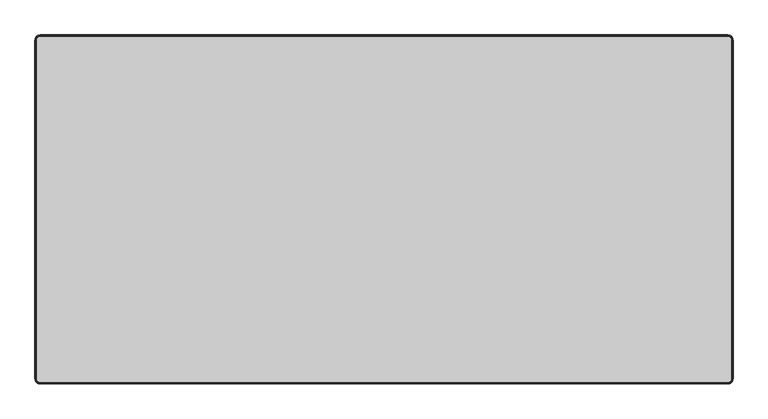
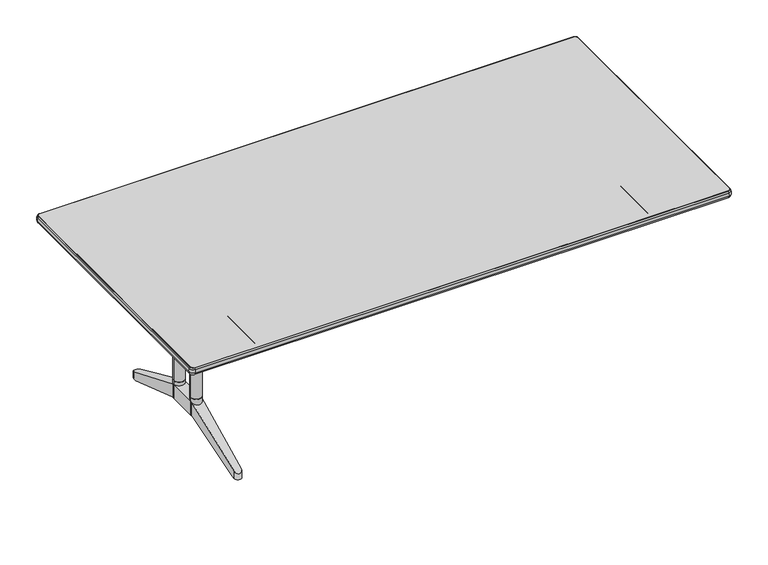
"""IFC4 building model written with IfcOpenShell, lengths in millimetres: furniture geometry, Furniture_Wilkhahn_614-00_TimetableShift : TIMETABLE SHIFT 614/00 2000L x 1000W."""

from ifc_helpers import new_model, si_unit, point, frame, frame_2d, origin, place, context, project, spatial, polyline, circle_curve, ellipse_curve, trimmed, segment, composite_curve, outline, extrude, source, transform, mapped, element, save
from ifc_brep_helpers import plane_surface, cylinder_surface, revolved_surface, advanced_brep


def furniture_5a756c34(model_context):
    return source(origin(), model_context, "Body", "SolidModel", [
        extrude(outline(composite_curve([segment(trimmed(circle_curve(frame_2d((-725.0, -154.0488451)), 20.0), [point((-745.0, -154.0488451))], [point((-705.0, -154.0488451))], False, "CARTESIAN"), True, "CONTINUOUS"), segment(trimmed(circle_curve(frame_2d((-725.0, -154.0488451)), 20.0), [point((-705.0, -154.0488451))], [point((-745.0, -154.0488451))], False, "CARTESIAN"), True, "CONTINUOUS")], self_intersect=False)), frame((0.0, 0.0, 193.3080085), z_axis=(0.0, 0.0, 1.0), x_axis=(1.0, 0.0, 0.0)), (0.0, 0.0, 1.0), 68.8536941),
        extrude(outline(composite_curve([segment(trimmed(circle_curve(frame_2d((-725.0, -44.0488461)), 20.0), [point((-745.0, -44.0488461))], [point((-705.0, -44.0488461))], False, "CARTESIAN"), True, "CONTINUOUS"), segment(trimmed(circle_curve(frame_2d((-725.0, -44.0488461)), 20.0), [point((-705.0, -44.0488461))], [point((-745.0, -44.0488461))], False, "CARTESIAN"), True, "CONTINUOUS")], self_intersect=False)), frame((0.0, 0.0, 193.3080085), z_axis=(0.0, 0.0, 1.0), x_axis=(1.0, 0.0, 0.0)), (0.0, 0.0, 1.0), 68.8536941),
        extrude(outline(composite_curve([segment(trimmed(circle_curve(frame_2d((-725.0, -154.0488451)), 20.0), [point((-745.0, -154.0488451))], [point((-705.0, -154.0488451))], False, "CARTESIAN"), True, "CONTINUOUS"), segment(trimmed(circle_curve(frame_2d((-725.0, -154.0488451)), 20.0), [point((-705.0, -154.0488451))], [point((-745.0, -154.0488451))], False, "CARTESIAN"), True, "CONTINUOUS")], self_intersect=False)), frame((0.0, 0.0, 262.1617027), z_axis=(0.0, 0.0, 1.0), x_axis=(1.0, 0.0, 0.0)), (0.0, 0.0, 1.0), 317.8382973),
        extrude(outline(composite_curve([segment(trimmed(circle_curve(frame_2d((-725.0, -44.0488461)), 20.0), [point((-745.0, -44.0488461))], [point((-705.0, -44.0488461))], False, "CARTESIAN"), True, "CONTINUOUS"), segment(trimmed(circle_curve(frame_2d((-725.0, -44.0488461)), 20.0), [point((-705.0, -44.0488461))], [point((-745.0, -44.0488461))], False, "CARTESIAN"), True, "CONTINUOUS")], self_intersect=False)), frame((0.0, 0.0, 262.1617027), z_axis=(0.0, 0.0, 1.0), x_axis=(1.0, 0.0, 0.0)), (0.0, 0.0, 1.0), 317.8382973),
        extrude(outline(polyline([(-698.9999882, 147.9511612), (-698.9999882, -352.0488426), (-751.0000118, -352.0488426), (-751.0000118, 147.9511612), (-698.9999882, 147.9511612)])), frame((0.0, 0.0, 676.0000168), z_axis=(0.0, 0.0, 1.0), x_axis=(1.0, 0.0, 0.0)), (0.0, 0.0, 1.0), 27.9999624),
        advanced_brep(
        [(-739.9998762, -140.8200278, 676.0000168), (-709.9998905, -140.8201331, 676.0000168), (-709.9998905, -134.0488456, 676.0000168), (-739.9998762, -134.0488456, 676.0000168), (-709.9998905, -57.2775581, 676.0000168), (-739.9998762, -57.2776634, 676.0000168), (-739.9998762, -64.0488456, 676.0000168), (-709.9998905, -64.0488456, 676.0000168), (-739.9998762, -57.2776634, 580.0), (-709.9998905, -57.2775581, 580.0), (-709.9998905, -140.8201331, 580.0), (-739.9998762, -140.8200278, 580.0), (-739.9998762, -134.0488456, 598.0000176), (-739.9998762, -64.0488456, 598.0000176), (-709.9998905, -64.0488456, 598.0000176), (-709.9998905, -134.0488456, 598.0000176)],
        [
            (0, 1, circle_curve(frame((-724.9999298, -154.0488451, 676.0000168), z_axis=(0.0, 0.0, 1.0), x_axis=(1.0, 0.0, 0.0)), 20.0)),
            (1, 2),
            (2, 3),
            (3, 0),
            (4, 5, circle_curve(frame((-724.9999298, -44.0488461, 676.0000168), z_axis=(0.0, 0.0, 1.0), x_axis=(1.0, 0.0, 0.0)), 20.0)),
            (5, 6),
            (6, 7),
            (7, 4),
            (8, 9, circle_curve(frame((-724.9999298, -44.0488461, 580.0), z_axis=(0.0, 0.0, -1.0), x_axis=(1.0, 0.0, 0.0)), 20.0)),
            (9, 10),
            (10, 11, circle_curve(frame((-724.9999298, -154.0488451, 580.0), z_axis=(0.0, 0.0, -1.0), x_axis=(1.0, 0.0, 0.0)), 20.0)),
            (11, 8),
            (11, 0),
            (3, 12),
            (12, 13),
            (13, 6),
            (5, 8),
            (10, 1),
            (9, 4),
            (7, 14),
            (14, 15),
            (15, 2),
            (15, 12),
            (14, 13),
        ],
        [
            plane_surface(frame((-739.9998762, -140.8200278, 676.0000168), z_axis=(0.0, 0.0, 1.0), x_axis=(0.0, -1.0, 0.0))),
            plane_surface(frame((-739.9998762, -140.8200278, 580.0), z_axis=(0.0, 0.0, -1.0), x_axis=(0.0, 1.0, 0.0))),
            plane_surface(frame((-739.9998762, -57.2776634, 676.0000168), z_axis=(-1.0, 0.0, 0.0), x_axis=(0.0, 0.0, -1.0))),
            cylinder_surface(frame((-724.9999298, -154.0488451, 580.0), z_axis=(0.0, 0.0, 1.0), x_axis=(1.0, 0.0, 0.0)), 20.0),
            plane_surface(frame((-709.9998905, -140.8201331, 676.0000168), z_axis=(1.0, 0.0, 0.0), x_axis=(0.0, 0.0, -1.0))),
            cylinder_surface(frame((-724.9999298, -44.0488461, 580.0), z_axis=(0.0, 0.0, 1.0), x_axis=(1.0, 0.0, 0.0)), 20.0),
            plane_surface(frame((-709.9998905, -134.0488456, 676.0000168), z_axis=(0.0, 1.0, 0.0), x_axis=(-1.0, 0.0, 0.0))),
            plane_surface(frame((-709.9998905, -134.0488456, 598.0000176), z_axis=(0.0, 0.0, 1.0), x_axis=(-1.0, 0.0, 0.0))),
            plane_surface(frame((-709.9998905, -64.0488456, 598.0000176), z_axis=(0.0, -1.0, 0.0), x_axis=(-1.0, 0.0, 0.0))),
        ],
        [
            (0, [[1, 2, 3, 4]]),
            (0, [[5, 6, 7, 8]]),
            (1, [[9, 10, 11, 12]]),
            (2, [[-12, 13, -4, 14, 15, 16, -6, 17]]),
            (3, [[-1, -13, -11, 18]]),
            (4, [[-10, 19, -8, 20, 21, 22, -2, -18]]),
            (5, [[-5, -19, -9, -17]]),
            (6, [[23, -14, -3, -22]]),
            (7, [[-23, -21, 24, -15]]),
            (8, [[-24, -20, -7, -16]]),
        ],
    ),
        advanced_brep(
        [(-711.5271049, 208.4135103, 105.0), (-738.472897, 208.4135103, 105.0), (-738.1262294, 221.8222582, 105.0), (-711.8737706, 221.8222564, 105.0), (-738.1262294, 221.8222582, 133.4205559), (-745.0000182, -44.0488461, 248.3080085), (-705.0000182, -44.0488461, 248.3080085), (-711.8737706, 221.8222564, 133.4205567), (-705.2000412, -36.3121196, 193.3080085), (-744.7999941, -36.3121196, 193.3080085), (-711.8737706, -419.9199475, 133.4205567), (-705.0000182, -154.0488451, 248.3080085), (-745.0000182, -154.0488451, 248.3080085), (-738.1262294, -419.9199493, 133.4205559), (-711.8737706, -419.9199475, 105.0), (-711.5271049, -406.5112014, 105.0), (-705.2000412, -161.7855715, 193.3080085), (-705.0000182, -154.0488451, 193.3080085), (-738.1262294, -419.9199493, 105.0), (-745.0000182, -154.0488451, 193.3080085), (-744.7999941, -161.7855715, 193.3080085), (-738.472897, -406.5112014, 105.0), (-745.0000182, -44.0488461, 193.3080085), (-705.0000182, -44.0488461, 193.3080085)],
        [
            (0, 1),
            (1, 2),
            (2, 3, circle_curve(frame((-725.0, 221.4828948, 105.0), z_axis=(0.0, 0.0, -1.0), x_axis=(1.0, 0.0, 0.0)), 13.1306156)),
            (3, 0),
            (4, 5),
            (5, 6),
            (6, 7),
            (7, 4, ellipse_curve(frame((-725.0, 221.4828948, 133.5672007), z_axis=(0.0, 0.3966672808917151, 0.9179624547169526), x_axis=(0.0, 0.9179624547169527, -0.39666728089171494)), 14.3040878, 13.1306156)),
            (0, 8),
            (8, 9),
            (9, 1),
            (10, 11),
            (11, 12),
            (12, 13),
            (13, 10, ellipse_curve(frame((-725.0, -419.5805859, 133.5672007), z_axis=(0.0, -0.3966672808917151, 0.9179624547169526), x_axis=(0.0, -0.9179624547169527, -0.39666728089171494)), 14.3040878, 13.1306156)),
            (10, 14),
            (14, 15),
            (15, 16),
            (16, 17),
            (17, 11),
            (13, 18),
            (18, 14, circle_curve(frame((-725.0, -419.5805859, 105.0), z_axis=(0.0, 0.0, 1.0), x_axis=(1.0, 0.0, 0.0)), 13.1306156)),
            (12, 19),
            (19, 20),
            (20, 21),
            (21, 18),
            (4, 2),
            (9, 22),
            (22, 5),
            (7, 3),
            (6, 23),
            (23, 8),
            (21, 15),
            (20, 16),
            (11, 6),
            (5, 12),
            (22, 19),
            (17, 23),
        ],
        [
            plane_surface(frame((-703.6205415, 208.4135103, 105.0), z_axis=(0.0, 0.0, -1.0), x_axis=(-1.0, 0.0, 0.0))),
            plane_surface(frame((-703.6205415, 235.9511544, 127.3152182), z_axis=(0.0, 0.3966672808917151, 0.9179624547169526), x_axis=(-1.0, 0.0, 0.0))),
            plane_surface(frame((-703.6205415, -36.3121196, 193.3080085), z_axis=(0.0, -0.3394229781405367, -0.9406338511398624), x_axis=(-1.0, 0.0, 0.0))),
            plane_surface(frame((-703.6205415, -154.0488451, 248.3080085), z_axis=(0.0, -0.3966672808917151, 0.9179624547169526), x_axis=(-1.0, 0.0, 0.0))),
            plane_surface(frame((-705.0000182, -154.0488451, 249.0000084), z_axis=(0.9996659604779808, -0.025845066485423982, 0.0), x_axis=(0.0, 0.0, -1.0))),
            cylinder_surface(frame((-725.0, -419.5805859, 90.0000025), z_axis=(0.0, 0.0, -1.0), x_axis=(1.0, 0.0, 0.0)), 13.1306156),
            plane_surface(frame((-738.1262294, -419.9199493, 249.0000084), z_axis=(-0.9996659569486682, -0.025845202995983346, 0.0), x_axis=(0.0, 0.0, -1.0))),
            plane_surface(frame((-745.0000182, -44.0488461, 249.0000084), z_axis=(-0.9996659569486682, 0.025845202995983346, 0.0), x_axis=(0.0, 0.0, -1.0))),
            cylinder_surface(frame((-725.0, 221.4828948, 0.0), z_axis=(0.0, 0.0, -1.0), x_axis=(1.0, 0.0, 0.0)), 13.1306156),
            plane_surface(frame((-711.8737706, 221.8222564, 249.0000084), z_axis=(0.9996659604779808, 0.025845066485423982, 0.0), x_axis=(0.0, 0.0, -1.0))),
            plane_surface(frame((-703.6205415, -434.0488456, 105.0), z_axis=(0.0, 0.0, -1.0), x_axis=(-1.0, 0.0, 0.0))),
            plane_surface(frame((-703.6205415, -406.5112014, 105.0), z_axis=(0.0, 0.3394229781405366, -0.9406338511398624), x_axis=(-1.0, 0.0, 0.0))),
            plane_surface(frame((-705.0000182, -44.0488461, 248.3080085), z_axis=(0.0, 0.0, 1.0), x_axis=(0.0, 1.0, 0.0))),
            plane_surface(frame((-745.0000182, -44.0488461, 248.3080085), z_axis=(-1.0, 0.0, 0.0), x_axis=(0.0, 0.0, -1.0))),
            plane_surface(frame((-705.0000182, -154.0488451, 248.3080085), z_axis=(1.0, 0.0, 0.0), x_axis=(0.0, 0.0, -1.0))),
            plane_surface(frame((-703.6205415, -44.0488461, 193.3080085), z_axis=(0.0, 0.0, -1.0), x_axis=(-1.0, 0.0, 0.0))),
        ],
        [
            (0, [[1, 2, 3, 4]]),
            (1, [[5, 6, 7, 8]]),
            (2, [[-1, 9, 10, 11]]),
            (3, [[12, 13, 14, 15]]),
            (4, [[16, 17, 18, 19, 20, -12]]),
            (5, [[-16, -15, 21, 22]]),
            (6, [[-21, -14, 23, 24, 25, 26]]),
            (7, [[27, -2, -11, 28, 29, -5]]),
            (8, [[-27, -8, 30, -3]]),
            (9, [[-30, -7, 31, 32, -9, -4]]),
            (10, [[33, -17, -22, -26]]),
            (11, [[-33, -25, 34, -18]]),
            (12, [[35, -6, 36, -13]]),
            (13, [[-36, -29, 37, -23]]),
            (14, [[-35, -20, 38, -31]]),
            (15, [[-10, -32, -38, -19, -34, -24, -37, -28]]),
        ],
    ),
        extrude(outline(composite_curve([segment(trimmed(circle_curve(frame_2d((-985.0, 385.9511544)), 10.0), [point((-995.0, 385.9511544))], [point((-985.0, 395.9511544))], False, "CARTESIAN"), True, "CONTINUOUS"), segment(polyline([(-985.0, 395.9511544), (985.0, 395.9511544)]), True, "CONTINUOUS"), segment(trimmed(circle_curve(frame_2d((985.0, 385.9511544)), 10.0), [point((985.0, 395.9511544))], [point((995.0, 385.9511544))], False, "CARTESIAN"), True, "CONTINUOUS"), segment(polyline([(995.0, 385.9511544), (995.0, -584.0488456)]), True, "CONTINUOUS"), segment(trimmed(circle_curve(frame_2d((985.0, -584.0488456)), 10.0), [point((995.0, -584.0488456))], [point((985.0, -594.0488456))], False, "CARTESIAN"), True, "CONTINUOUS"), segment(polyline([(985.0, -594.0488456), (-985.0, -594.0488456)]), True, "CONTINUOUS"), segment(trimmed(circle_curve(frame_2d((-985.0, -584.0488456)), 10.0), [point((-985.0, -594.0488456))], [point((-995.0, -584.0488456))], False, "CARTESIAN"), True, "CONTINUOUS"), segment(polyline([(-995.0, -584.0488456), (-995.0, 385.9511544)]), True, "CONTINUOUS")], self_intersect=False)), frame((0.0, 0.0, 703.9999792), z_axis=(0.0, 0.0, 1.0), x_axis=(1.0, 0.0, 0.0)), (0.0, 0.0, 1.0), 26.0000208),
        extrude(outline(composite_curve([segment(trimmed(circle_curve(frame_2d((689.999998, -725.0)), 3.5), [point((686.499998, -725.0))], [point((693.499998, -725.0))], False, "CARTESIAN"), True, "CONTINUOUS"), segment(trimmed(circle_curve(frame_2d((689.999998, -725.0)), 3.5), [point((693.499998, -725.0))], [point((686.499998, -725.0))], False, "CARTESIAN"), True, "CONTINUOUS")], self_intersect=False)), frame((0.0, -525.4394749, 0.0), z_axis=(0.0, 1.0, 0.0), x_axis=(0.0, 0.0, 1.0)), (0.0, 0.0, 1.0), 173.3906323),
        extrude(outline(composite_curve([segment(trimmed(circle_curve(frame_2d((689.999998, 725.0)), 3.5), [point((686.499998, 725.0))], [point((693.499998, 725.0))], False, "CARTESIAN"), True, "CONTINUOUS"), segment(trimmed(circle_curve(frame_2d((689.999998, 725.0)), 3.5), [point((693.499998, 725.0))], [point((686.499998, 725.0))], False, "CARTESIAN"), True, "CONTINUOUS")], self_intersect=False)), frame((0.0, -525.4394749, 0.0), z_axis=(0.0, 1.0, 0.0), x_axis=(0.0, 0.0, 1.0)), (0.0, 0.0, 1.0), 173.3906323),
        advanced_brep(
        [(-985.0, -594.0488456, 703.9999792), (-995.0, -584.0488456, 703.9999792), (-995.0, -584.0488456, 730.0), (-985.0, -594.0488456, 730.0), (-985.0, -597.4983863, 710.4062743), (-998.4495407, -584.0488456, 710.4062743), (-996.2436764, -584.0488456, 703.9999792), (-985.0, -595.292522, 703.9999792), (-985.0, -597.4983863, 723.593705), (-998.4495407, -584.0488456, 723.593705), (-985.0, -595.292522, 730.0), (-996.2436764, -584.0488456, 730.0), (985.0, -594.0488456, 730.0), (985.0, -594.0488456, 703.9999792), (985.0, -595.292522, 703.9999792), (985.0, -597.4983863, 710.4062743), (985.0, -597.4983863, 723.593705), (985.0, -595.292522, 730.0), (995.0, -584.0488456, 703.9999792), (995.0, -584.0488456, 730.0), (998.4495407, -584.0488456, 710.4062743), (996.2436764, -584.0488456, 703.9999792), (998.4495407, -584.0488456, 723.593705), (996.2436764, -584.0488456, 730.0), (995.0, 385.9511544, 730.0), (995.0, 385.9511544, 703.9999792), (996.2436764, 385.9511544, 703.9999792), (998.4495407, 385.9511544, 710.4062743), (998.4495407, 385.9511544, 723.593705), (996.2436764, 385.9511544, 730.0), (985.0, 395.9511544, 703.9999792), (985.0, 395.9511544, 730.0), (985.0, 399.4006952, 710.4062743), (985.0, 397.1948309, 703.9999792), (985.0, 399.4006952, 723.593705), (985.0, 397.1948309, 730.0), (-985.0, 395.9511544, 730.0), (-985.0, 395.9511544, 703.9999792), (-985.0, 397.1948309, 703.9999792), (-985.0, 399.4006952, 710.4062743), (-985.0, 399.4006952, 723.593705), (-985.0, 397.1948309, 730.0), (-995.0, 385.9511544, 703.9999792), (-995.0, 385.9511544, 730.0), (-998.4495407, 385.9511544, 710.4062743), (-996.2436764, 385.9511544, 703.9999792), (-998.4495407, 385.9511544, 723.593705), (-996.2436764, 385.9511544, 730.0)],
        [
            (0, 1, circle_curve(frame((-985.0, -584.0488456, 703.9999792), z_axis=(0.0, 0.0, -1.0), x_axis=(-1.0, 0.0, 0.0)), 10.0)),
            (1, 2),
            (2, 3, circle_curve(frame((-985.0, -584.0488456, 730.0), z_axis=(0.0, 0.0, 1.0), x_axis=(-1.0, 0.0, 0.0)), 10.0)),
            (3, 0),
            (4, 5, circle_curve(frame((-985.0, -584.0488456, 710.4062743), z_axis=(0.0, 0.0, -1.0), x_axis=(-1.0, 0.0, 0.0)), 13.4495407)),
            (5, 6),
            (6, 7, circle_curve(frame((-985.0, -584.0488456, 703.9999792), z_axis=(0.0, 0.0, 1.0), x_axis=(-1.0, 0.0, 0.0)), 11.2436764)),
            (7, 4),
            (8, 9, circle_curve(frame((-985.0, -584.0488456, 723.593705), z_axis=(0.0, 0.0, -1.0), x_axis=(-1.0, 0.0, 0.0)), 13.4495407)),
            (9, 5, circle_curve(frame((-985.2040596, -584.0488456, 716.9999896), z_axis=(0.0, -1.0, 0.0), x_axis=(1.0, 0.0, 0.0)), 14.7959404)),
            (4, 8, circle_curve(frame((-985.0, -584.2529051, 716.9999896), z_axis=(-1.0, 0.0, 0.0), x_axis=(0.0, 1.0, 0.0)), 14.7959404)),
            (10, 11, circle_curve(frame((-985.0, -584.0488456, 730.0), z_axis=(0.0, 0.0, -1.0), x_axis=(-1.0, 0.0, 0.0)), 11.2436764)),
            (11, 9),
            (8, 10),
            (3, 12),
            (12, 13),
            (13, 0),
            (7, 14),
            (14, 15),
            (15, 4),
            (15, 16, circle_curve(frame((985.0, -584.2529051, 716.9999896), z_axis=(-1.0, 0.0, 0.0), x_axis=(0.0, 1.0, 0.0)), 14.7959404)),
            (16, 8),
            (16, 17),
            (17, 10),
            (18, 13, circle_curve(frame((985.0, -584.0488456, 703.9999792), z_axis=(0.0, 0.0, -1.0), x_axis=(0.0, -1.0, 0.0)), 10.0)),
            (12, 19, circle_curve(frame((985.0, -584.0488456, 730.0), z_axis=(0.0, 0.0, 1.0), x_axis=(0.0, -1.0, 0.0)), 10.0)),
            (19, 18),
            (20, 15, circle_curve(frame((985.0, -584.0488456, 710.4062743), z_axis=(0.0, 0.0, -1.0), x_axis=(0.0, -1.0, 0.0)), 13.4495407)),
            (14, 21, circle_curve(frame((985.0, -584.0488456, 703.9999792), z_axis=(0.0, 0.0, 1.0), x_axis=(0.0, -1.0, 0.0)), 11.2436764)),
            (21, 20),
            (22, 16, circle_curve(frame((985.0, -584.0488456, 723.593705), z_axis=(0.0, 0.0, -1.0), x_axis=(0.0, -1.0, 0.0)), 13.4495407)),
            (20, 22, circle_curve(frame((985.2040596, -584.0488456, 716.9999896), z_axis=(0.0, -1.0, 0.0), x_axis=(-1.0, 0.0, 0.0)), 14.7959404)),
            (23, 17, circle_curve(frame((985.0, -584.0488456, 730.0), z_axis=(0.0, 0.0, -1.0), x_axis=(0.0, -1.0, 0.0)), 11.2436764)),
            (22, 23),
            (19, 24),
            (24, 25),
            (25, 18),
            (21, 26),
            (26, 27),
            (27, 20),
            (27, 28, circle_curve(frame((985.2040596, 385.9511544, 716.9999896), z_axis=(0.0, -1.0, 0.0), x_axis=(-1.0, 0.0, 0.0)), 14.7959404)),
            (28, 22),
            (28, 29),
            (29, 23),
            (30, 25, circle_curve(frame((985.0, 385.9511544, 703.9999792), z_axis=(0.0, 0.0, -1.0), x_axis=(1.0, 0.0, 0.0)), 10.0)),
            (24, 31, circle_curve(frame((985.0, 385.9511544, 730.0), z_axis=(0.0, 0.0, 1.0), x_axis=(1.0, 0.0, 0.0)), 10.0)),
            (31, 30),
            (32, 27, circle_curve(frame((985.0, 385.9511544, 710.4062743), z_axis=(0.0, 0.0, -1.0), x_axis=(1.0, 0.0, 0.0)), 13.4495407)),
            (26, 33, circle_curve(frame((985.0, 385.9511544, 703.9999792), z_axis=(0.0, 0.0, 1.0), x_axis=(1.0, 0.0, 0.0)), 11.2436764)),
            (33, 32),
            (34, 28, circle_curve(frame((985.0, 385.9511544, 723.593705), z_axis=(0.0, 0.0, -1.0), x_axis=(1.0, 0.0, 0.0)), 13.4495407)),
            (32, 34, circle_curve(frame((985.0, 386.155214, 716.9999896), z_axis=(1.0, 0.0, 0.0), x_axis=(0.0, -1.0, 0.0)), 14.7959404)),
            (35, 29, circle_curve(frame((985.0, 385.9511544, 730.0), z_axis=(0.0, 0.0, -1.0), x_axis=(1.0, 0.0, 0.0)), 11.2436764)),
            (34, 35),
            (31, 36),
            (36, 37),
            (37, 30),
            (33, 38),
            (38, 39),
            (39, 32),
            (39, 40, circle_curve(frame((-985.0, 386.155214, 716.9999896), z_axis=(1.0, 0.0, 0.0), x_axis=(0.0, -1.0, 0.0)), 14.7959404)),
            (40, 34),
            (40, 41),
            (41, 35),
            (42, 37, circle_curve(frame((-985.0, 385.9511544, 703.9999792), z_axis=(0.0, 0.0, -1.0), x_axis=(0.0, 1.0, 0.0)), 10.0)),
            (36, 43, circle_curve(frame((-985.0, 385.9511544, 730.0), z_axis=(0.0, 0.0, 1.0), x_axis=(0.0, 1.0, 0.0)), 10.0)),
            (43, 42),
            (44, 39, circle_curve(frame((-985.0, 385.9511544, 710.4062743), z_axis=(0.0, 0.0, -1.0), x_axis=(0.0, 1.0, 0.0)), 13.4495407)),
            (38, 45, circle_curve(frame((-985.0, 385.9511544, 703.9999792), z_axis=(0.0, 0.0, 1.0), x_axis=(0.0, 1.0, 0.0)), 11.2436764)),
            (45, 44),
            (46, 40, circle_curve(frame((-985.0, 385.9511544, 723.593705), z_axis=(0.0, 0.0, -1.0), x_axis=(0.0, 1.0, 0.0)), 13.4495407)),
            (44, 46, circle_curve(frame((-985.2040596, 385.9511544, 716.9999896), z_axis=(0.0, 1.0, 0.0), x_axis=(1.0, 0.0, 0.0)), 14.7959404)),
            (47, 41, circle_curve(frame((-985.0, 385.9511544, 730.0), z_axis=(0.0, 0.0, -1.0), x_axis=(0.0, 1.0, 0.0)), 11.2436764)),
            (46, 47),
            (43, 2),
            (1, 42),
            (45, 6),
            (5, 44),
            (9, 46),
            (11, 47),
        ],
        [
            revolved_surface(polyline([(-995.0, -584.0488456, 730.0), (-995.0, -584.0488456, 703.9999792)]), (-985.0, -584.0488456, 730.0), (0.0, 0.0, 1.0)),
            revolved_surface(polyline([(-996.2436764, -584.0488456, 703.9999792), (-998.4495407, -584.0488456, 710.4062743)]), (-985.0, -584.0488456, 730.0), (0.0, 0.0, 1.0)),
            revolved_surface(trimmed(ellipse_curve(frame((-985.2040596, -584.0488456, 716.9999896), z_axis=(0.0, 1.0, 0.0), x_axis=(1.0, 0.0, 0.0)), 14.7959404, 14.7959404), [point((-998.4495407, -584.0488456, 710.4062743))], [point((-998.4495407, -584.0488456, 723.593705))], True, "CARTESIAN"), (-985.0, -584.0488456, 730.0), (0.0, 0.0, 1.0)),
            revolved_surface(polyline([(-998.4495407, -584.0488456, 723.593705), (-996.2436764, -584.0488456, 730.0)]), (-985.0, -584.0488456, 730.0), (0.0, 0.0, 1.0)),
            plane_surface(frame((-985.0, -594.0488456, 730.0), z_axis=(0.0, 1.0, 0.0), x_axis=(1.0, 0.0, 0.0))),
            plane_surface(frame((-985.0, -595.292522, 703.9999792), z_axis=(0.0, -0.9455185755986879, -0.32556815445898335), x_axis=(1.0, 0.0, 0.0))),
            cylinder_surface(frame((-985.0, -584.2529051, 716.9999896), z_axis=(-1.0, 0.0, 0.0), x_axis=(0.0, 1.0, 0.0)), 14.7959404),
            plane_surface(frame((-985.0, -597.4983863, 723.593705), z_axis=(0.0, -0.945518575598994, 0.32556815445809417), x_axis=(1.0, 0.0, 0.0))),
            revolved_surface(polyline([(985.0, -594.0488456, 730.0), (985.0, -594.0488456, 703.9999792)]), (985.0, -584.0488456, 730.0), (0.0, 0.0, 1.0)),
            revolved_surface(polyline([(985.0, -595.292522, 703.9999792), (985.0, -597.4983863, 710.4062743)]), (985.0, -584.0488456, 730.0), (0.0, 0.0, 1.0)),
            revolved_surface(trimmed(ellipse_curve(frame((985.0, -584.2529051, 716.9999896), z_axis=(-1.0, 0.0, 0.0), x_axis=(0.0, 1.0, 0.0)), 14.7959404, 14.7959404), [point((985.0, -597.4983863, 710.4062743))], [point((985.0, -597.4983863, 723.593705))], True, "CARTESIAN"), (985.0, -584.0488456, 730.0), (0.0, 0.0, 1.0)),
            revolved_surface(polyline([(985.0, -597.4983863, 723.593705), (985.0, -595.292522, 730.0)]), (985.0, -584.0488456, 730.0), (0.0, 0.0, 1.0)),
            plane_surface(frame((995.0, -584.0488456, 730.0), z_axis=(-1.0, 0.0, 0.0), x_axis=(0.0, 1.0, 0.0))),
            plane_surface(frame((996.2436764, -584.0488456, 703.9999792), z_axis=(0.9455185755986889, 0.0, -0.32556815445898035), x_axis=(0.0, 1.0, 0.0))),
            cylinder_surface(frame((985.2040596, -584.0488456, 716.9999896), z_axis=(0.0, -1.0, 0.0), x_axis=(-1.0, 0.0, 0.0)), 14.7959404),
            plane_surface(frame((998.4495407, -584.0488456, 723.593705), z_axis=(0.945518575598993, 0.0, 0.32556815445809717), x_axis=(0.0, 1.0, 0.0))),
            revolved_surface(polyline([(995.0, 385.9511544, 730.0), (995.0, 385.9511544, 703.9999792)]), (985.0, 385.9511544, 730.0), (0.0, 0.0, 1.0)),
            revolved_surface(polyline([(996.2436764, 385.9511544, 703.9999792), (998.4495407, 385.9511544, 710.4062743)]), (985.0, 385.9511544, 730.0), (0.0, 0.0, 1.0)),
            revolved_surface(trimmed(ellipse_curve(frame((985.2040596, 385.9511544, 716.9999896), z_axis=(0.0, -1.0, 0.0), x_axis=(-1.0, 0.0, 0.0)), 14.7959404, 14.7959404), [point((998.4495407, 385.9511544, 710.4062743))], [point((998.4495407, 385.9511544, 723.593705))], True, "CARTESIAN"), (985.0, 385.9511544, 730.0), (0.0, 0.0, 1.0)),
            revolved_surface(polyline([(998.4495407, 385.9511544, 723.593705), (996.2436764, 385.9511544, 730.0)]), (985.0, 385.9511544, 730.0), (0.0, 0.0, 1.0)),
            plane_surface(frame((985.0, 395.9511544, 730.0), z_axis=(0.0, -1.0, 0.0), x_axis=(-1.0, 0.0, 0.0))),
            plane_surface(frame((985.0, 397.1948309, 703.9999792), z_axis=(0.0, 0.9455185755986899, -0.32556815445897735), x_axis=(-1.0, 0.0, 0.0))),
            cylinder_surface(frame((985.0, 386.155214, 716.9999896), z_axis=(1.0, 0.0, 0.0), x_axis=(0.0, -1.0, 0.0)), 14.7959404),
            plane_surface(frame((985.0, 399.4006952, 723.593705), z_axis=(0.0, 0.945518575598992, 0.32556815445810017), x_axis=(-1.0, 0.0, 0.0))),
            revolved_surface(polyline([(-985.0, 395.9511544, 730.0), (-985.0, 395.9511544, 703.9999792)]), (-985.0, 385.9511544, 730.0), (0.0, 0.0, 1.0)),
            revolved_surface(polyline([(-985.0, 397.1948309, 703.9999792), (-985.0, 399.4006952, 710.4062743)]), (-985.0, 385.9511544, 730.0), (0.0, 0.0, 1.0)),
            revolved_surface(trimmed(ellipse_curve(frame((-985.0, 386.155214, 716.9999896), z_axis=(1.0, 0.0, 0.0), x_axis=(0.0, -1.0, 0.0)), 14.7959404, 14.7959404), [point((-985.0, 399.4006952, 710.4062743))], [point((-985.0, 399.4006952, 723.593705))], True, "CARTESIAN"), (-985.0, 385.9511544, 730.0), (0.0, 0.0, 1.0)),
            revolved_surface(polyline([(-985.0, 399.4006952, 723.593705), (-985.0, 397.1948309, 730.0)]), (-985.0, 385.9511544, 730.0), (0.0, 0.0, 1.0)),
            plane_surface(frame((-995.0, 385.9511544, 730.0), z_axis=(1.0, 0.0, 0.0), x_axis=(0.0, -1.0, 0.0))),
            plane_surface(frame((-996.2436764, 385.9511544, 703.9999792), z_axis=(-0.9455185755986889, 0.0, -0.32556815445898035), x_axis=(0.0, -1.0, 0.0))),
            cylinder_surface(frame((-985.2040596, 385.9511544, 716.9999896), z_axis=(0.0, 1.0, 0.0), x_axis=(1.0, 0.0, 0.0)), 14.7959404),
            plane_surface(frame((-998.4495407, 385.9511544, 723.593705), z_axis=(-0.945518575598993, 0.0, 0.32556815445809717), x_axis=(0.0, -1.0, 0.0))),
            plane_surface(frame((-995.0, 385.9511544, 703.9999792), z_axis=(0.0, 0.0, -1.0), x_axis=(0.0, -1.0, 0.0))),
            plane_surface(frame((-996.2436764, 385.9511544, 730.0), z_axis=(0.0, 0.0, 1.0), x_axis=(0.0, -1.0, 0.0))),
        ],
        [
            (0, [[1, 2, 3, 4]]),
            (1, [[5, 6, 7, 8]]),
            (2, [[9, 10, -5, 11]]),
            (3, [[12, 13, -9, 14]]),
            (4, [[-4, 15, 16, 17]]),
            (5, [[-8, 18, 19, 20]]),
            (6, [[-11, -20, 21, 22]]),
            (7, [[-14, -22, 23, 24]]),
            (8, [[25, -16, 26, 27]]),
            (9, [[28, -19, 29, 30]]),
            (10, [[31, -21, -28, 32]]),
            (11, [[33, -23, -31, 34]]),
            (12, [[-27, 35, 36, 37]]),
            (13, [[-30, 38, 39, 40]]),
            (14, [[-32, -40, 41, 42]]),
            (15, [[-34, -42, 43, 44]]),
            (16, [[45, -36, 46, 47]]),
            (17, [[48, -39, 49, 50]]),
            (18, [[51, -41, -48, 52]]),
            (19, [[53, -43, -51, 54]]),
            (20, [[-47, 55, 56, 57]]),
            (21, [[-50, 58, 59, 60]]),
            (22, [[-52, -60, 61, 62]]),
            (23, [[-54, -62, 63, 64]]),
            (24, [[65, -56, 66, 67]]),
            (25, [[68, -59, 69, 70]]),
            (26, [[71, -61, -68, 72]]),
            (27, [[73, -63, -71, 74]]),
            (28, [[-67, 75, -2, 76]]),
            (29, [[-70, 77, -6, 78]]),
            (30, [[-72, -78, -10, 79]]),
            (31, [[-74, -79, -13, 80]]),
            (32, [[-77, -69, -58, -49, -38, -29, -18, -7], [-57, -65, -76, -1, -17, -25, -37, -45]]),
            (33, [[-64, -73, -80, -12, -24, -33, -44, -53], [-75, -66, -55, -46, -35, -26, -15, -3]]),
        ],
    ),
        advanced_brep(
        [(-750.9999286, -525.4394749, 701.7335614), (-750.9999286, -525.4394749, 686.7335614), (-670.1927788, -525.4394749, 678.733541), (-669.000359, -525.4394749, 693.733541), (669.000359, -525.4394749, 693.733541), (670.1927788, -525.4394749, 678.733541), (750.8748715, -525.4394749, 701.7335614), (750.8748715, -525.4394749, 686.7335614), (719.0003594, -525.4394749, 701.7335614), (720.1927792, -525.4394749, 686.7335614), (-719.0003594, -525.4394749, 701.7335614), (-720.1927792, -525.4394749, 686.7335614)],
        [
            (0, 1, circle_curve(frame((-750.9999286, -525.4394749, 694.2335614), z_axis=(-1.0, 0.0, 0.0), x_axis=(0.0, 0.0, -1.0)), 7.5)),
            (1, 0, circle_curve(frame((-750.9999286, -525.4394749, 694.2335614), z_axis=(-1.0, 0.0, 0.0), x_axis=(0.0, 0.0, -1.0)), 7.5)),
            (2, 3, ellipse_curve(frame((-669.5965689, -525.4394749, 686.233541), z_axis=(0.9968551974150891, 0.0, -0.07924465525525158), x_axis=(-0.0792446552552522, 0.0, -0.9968551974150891)), 7.5236604, 7.5)),
            (3, 4),
            (4, 5, ellipse_curve(frame((669.5965689, -525.4394749, 686.233541), z_axis=(-0.9968551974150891, 0.0, -0.07924465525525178), x_axis=(-0.07924465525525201, 0.0, 0.9968551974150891)), 7.5236604, 7.5)),
            (5, 2),
            (3, 2, ellipse_curve(frame((-669.5965689, -525.4394749, 686.233541), z_axis=(0.9968551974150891, 0.0, -0.07924465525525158), x_axis=(-0.0792446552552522, 0.0, -0.9968551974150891)), 7.5236604, 7.5)),
            (5, 4, ellipse_curve(frame((669.5965689, -525.4394749, 686.233541), z_axis=(-0.9968551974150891, 0.0, -0.07924465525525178), x_axis=(-0.07924465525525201, 0.0, 0.9968551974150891)), 7.5236604, 7.5)),
            (6, 7, circle_curve(frame((750.8748715, -525.4394749, 694.2335614), z_axis=(1.0, 0.0, 0.0), x_axis=(0.0, 0.0, -1.0)), 7.5)),
            (7, 6, circle_curve(frame((750.8748715, -525.4394749, 694.2335614), z_axis=(1.0, 0.0, 0.0), x_axis=(0.0, 0.0, -1.0)), 7.5)),
            (4, 8),
            (8, 9, ellipse_curve(frame((719.5965693, -525.4394749, 694.2335614), z_axis=(-0.9968551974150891, 0.0, -0.07924465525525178), x_axis=(0.07924465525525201, 0.0, -0.9968551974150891)), 7.5236604, 7.5)),
            (9, 5),
            (9, 8, ellipse_curve(frame((719.5965693, -525.4394749, 694.2335614), z_axis=(-0.9968551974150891, 0.0, -0.07924465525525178), x_axis=(0.07924465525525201, 0.0, -0.9968551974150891)), 7.5236604, 7.5)),
            (8, 6),
            (7, 9),
            (0, 10),
            (10, 11, ellipse_curve(frame((-719.5965693, -525.4394749, 694.2335614), z_axis=(-0.9968551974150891, 0.0, 0.07924465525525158), x_axis=(-0.0792446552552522, 0.0, -0.9968551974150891)), 7.5236604, 7.5)),
            (11, 1),
            (11, 10, ellipse_curve(frame((-719.5965693, -525.4394749, 694.2335614), z_axis=(-0.9968551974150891, 0.0, 0.07924465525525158), x_axis=(-0.0792446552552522, 0.0, -0.9968551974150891)), 7.5236604, 7.5)),
            (10, 3),
            (2, 11),
        ],
        [
            plane_surface(frame((-750.9999286, -599.0488456, 664.0000082), z_axis=(-1.0, 0.0, 0.0), x_axis=(0.0, 1.0, 0.0))),
            cylinder_surface(frame((-671.9999746, -525.4394749, 686.233541), z_axis=(-1.0, 0.0, 0.0), x_axis=(0.0, 0.0, -1.0)), 7.5),
            plane_surface(frame((750.8748715, -599.0488456, 664.0000082), z_axis=(1.0, 0.0, 0.0), x_axis=(0.0, 1.0, 0.0))),
            cylinder_surface(frame((667.2233486, -525.4394749, 685.8538248), z_axis=(-0.9874405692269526, 0.0, -0.15799089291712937), x_axis=(0.15799089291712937, 0.0, -0.9874405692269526)), 7.5),
            cylinder_surface(frame((721.999975, -525.4394749, 694.2335614), z_axis=(-1.0, 0.0, 0.0), x_axis=(0.0, 0.0, -1.0)), 7.5),
            cylinder_surface(frame((-750.9999286, -525.4394749, 694.2335614), z_axis=(-1.0, 0.0, 0.0), x_axis=(0.0, 0.0, -1.0)), 7.5),
            cylinder_surface(frame((-717.2233489, -525.4394749, 693.8538452), z_axis=(-0.9874405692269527, 0.0, 0.15799089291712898), x_axis=(-0.15799089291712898, 0.0, -0.9874405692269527)), 7.5),
        ],
        [
            (0, [[1, 2]]),
            (1, [[3, 4, 5, 6]]),
            (1, [[7, -6, 8, -4]]),
            (2, [[9, 10]]),
            (3, [[-5, 11, 12, 13]]),
            (3, [[-8, -13, 14, -11]]),
            (4, [[-12, 15, -10, 16]]),
            (4, [[-14, -16, -9, -15]]),
            (5, [[-1, 17, 18, 19]]),
            (5, [[-2, -19, 20, -17]]),
            (6, [[-18, 21, -3, 22]]),
            (6, [[-20, -22, -7, -21]]),
        ],
    ),
        extrude(outline(polyline([(-66.0488461, 600.0000046), (-66.0488461, 658.0000254), (-64.0488456, 658.0000254), (-64.0488456, 598.0000176), (-134.0488456, 598.0000176), (-134.0488456, 658.0000254), (-132.048845, 658.0000254), (-132.048845, 600.0000046), (-66.0488461, 600.0000046)])), frame((-740.0, 0.0, 0.0), z_axis=(1.0, 0.0, 0.0), x_axis=(0.0, 1.0, 0.0)), (0.0, 0.0, 1.0), 1480.0),
    ])


if __name__ == "__main__":
    model = new_model("IFC4")
    model_context = context("Model", 3, world=origin())
    ifc_project = project(units=[si_unit("LENGTHUNIT", "METRE", prefix="MILLI")], contexts=[model_context])
    site = spatial("IfcSite", under=ifc_project)
    building = spatial("IfcBuilding", under=site)
    placement = place(None, origin())
    furniture_shape = furniture_5a756c34(model_context)
    element("IfcFurniture", 1, ObjectType="Furniture_Wilkhahn_614-00_TimetableShift : TIMETABLE SHIFT 614/00 2000L x 1000W", at=placement, inside=building, context=model_context, shape_type="MappedRepresentation", body=[
        mapped(furniture_shape, transform((0.0, 0.0, 0.0), x_axis=(1.0, 0.0, 0.0), y_axis=(0.0, 1.0, 0.0), z_axis=(0.0, 0.0, 1.0))),
    ])
    save(model, "model.ifc")
